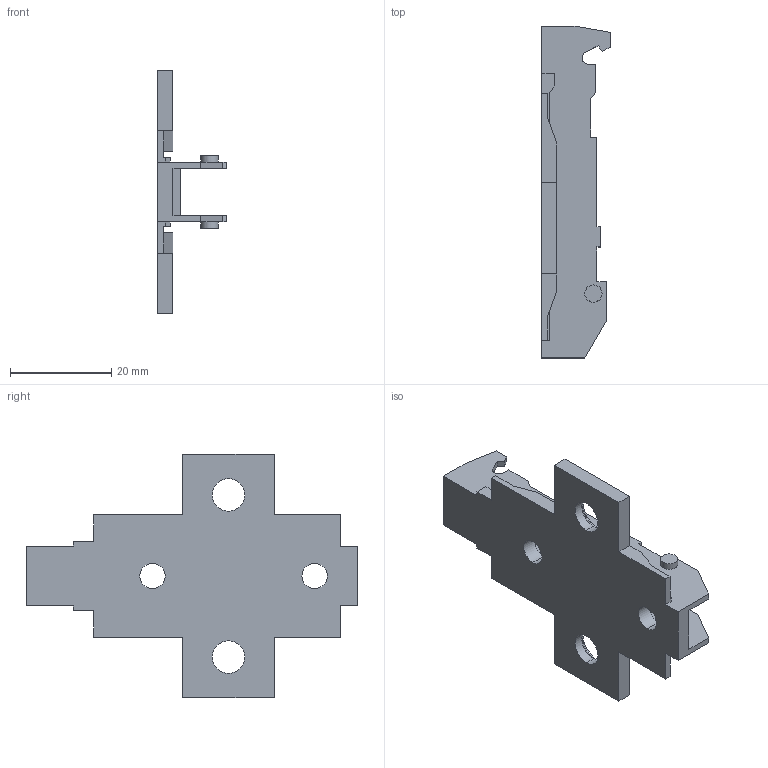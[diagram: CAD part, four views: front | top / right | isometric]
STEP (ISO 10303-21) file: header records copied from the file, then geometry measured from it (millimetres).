
FILE_DESCRIPTION (( 'STEP AP214' ), '1' );
FILE_NAME ('1D_Kreuzmontageplatte 37_32_Euro_3.step', '2018-10-02T12:38:42', ( '' ), ( '' ), 'SwSTEP 2.0', 'SolidWorks 2017', '' );
FILE_SCHEMA (( 'AUTOMOTIVE_DESIGN' ));
Length unit declared in the file: millimetre
Products named in the file (1): 1D_Kreuzmontageplatte 37_32_Euro_3
Bounding box: 13.5 x 65.5 x 48 mm (x, y, z)
Volume: 6027.9 mm3; surface area: 6659.6 mm2
Topology: 1 solids, 1 shells, 110 faces, 310 edges, 204 vertices
Faces by surface type: plane 84, cylinder 22, cone 4
Entity records: 3564 total; most frequent: CARTESIAN_POINT 625, ORIENTED_EDGE 620, DIRECTION 576, EDGE_CURVE 310, LINE 266, VECTOR 266, VERTEX_POINT 204, AXIS2_PLACEMENT_3D 155
